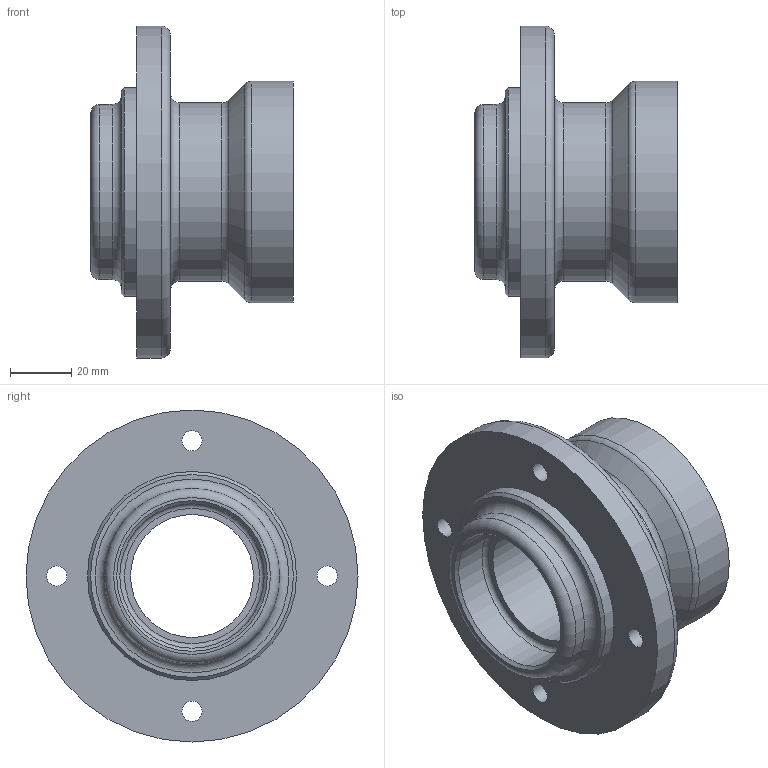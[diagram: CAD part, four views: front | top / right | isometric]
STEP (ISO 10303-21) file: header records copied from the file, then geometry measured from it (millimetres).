
FILE_DESCRIPTION(/* description */ (''),/* implementation_level */ '2;1');
FILE_NAME(/* name */ '',/* time_stamp */ '2026-01-09T11:20:32+09:00',/* author */ ('jhkim'),/* organization */ (''),/* preprocessor_version */ 'ST-DEVELOPER v20.1',/* originating_system */ 'Autodesk Inventor 2026',/* authorisation */ '');
FILE_SCHEMA (('AUTOMOTIVE_DESIGN { 1 0 10303 214 3 1 1 }'));
Length unit declared in the file: millimetre
Products named in the file (1): 베어링 하우징
Bounding box: 66 x 108 x 108 mm (x, y, z)
Volume: 172629.9 mm3; surface area: 41339.9 mm2
Topology: 1 solids, 1 shells, 47 faces, 104 edges, 68 vertices
Faces by surface type: cylinder 20, plane 11, cone 8, torus 8
Full cylindrical faces by diameter (mm): 3.242 x4, 6.6 x4, 11 x4, 40 x1, 47 x2, 57 x1, 58 x1, 68 x1, 72 x1, 108 x1
Entity records: 1381 total; most frequent: DIRECTION 268, CARTESIAN_POINT 216, ORIENTED_EDGE 200, AXIS2_PLACEMENT_3D 120, EDGE_CURVE 100, CIRCLE 72, EDGE_LOOP 70, VERTEX_POINT 68
